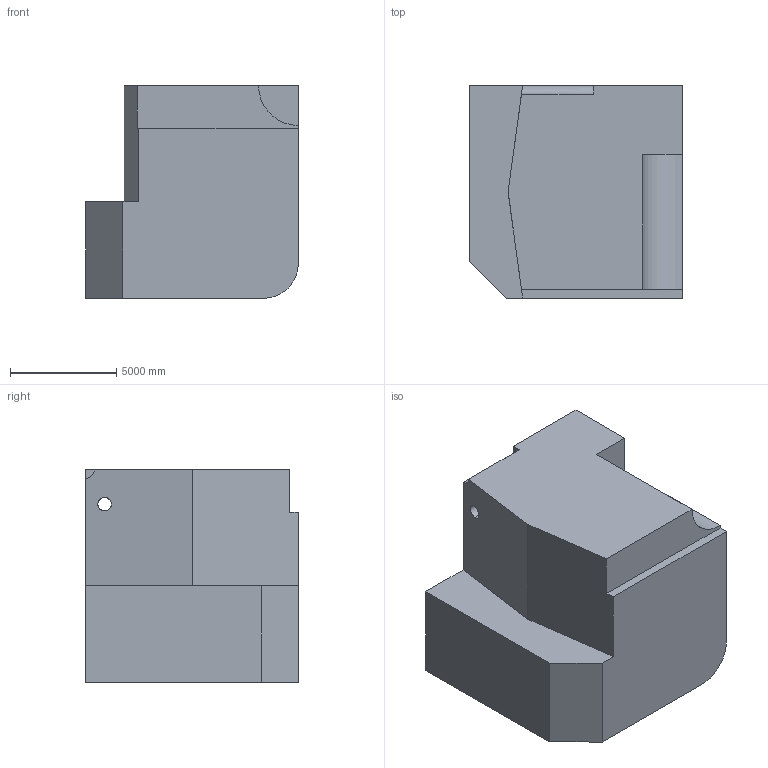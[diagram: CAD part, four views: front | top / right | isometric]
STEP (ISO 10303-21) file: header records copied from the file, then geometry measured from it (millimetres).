
FILE_DESCRIPTION (( 'STEP AP203' ), '1' );
FILE_NAME ('76.STEP', '2022-09-02T14:02:46', ( 'user' ), ( '' ), 'SwSTEP 2.0', 'SolidWorks 2021', '' );
FILE_SCHEMA (( 'CONFIG_CONTROL_DESIGN' ));
Length unit declared in the file: centimetre
Products named in the file (1): 76
Bounding box: 10000 x 10000 x 10000 mm (x, y, z)
Volume: 835728840179.6 mm3; surface area: 581040941.6 mm2
Topology: 1 solids, 1 shells, 24 faces, 63 edges, 42 vertices
Faces by surface type: plane 15, cylinder 9
Entity records: 1223 total; most frequent: CARTESIAN_POINT 547, ORIENTED_EDGE 126, DIRECTION 117, EDGE_CURVE 63, LINE 45, VECTOR 45, VERTEX_POINT 42, AXIS2_PLACEMENT_3D 36
